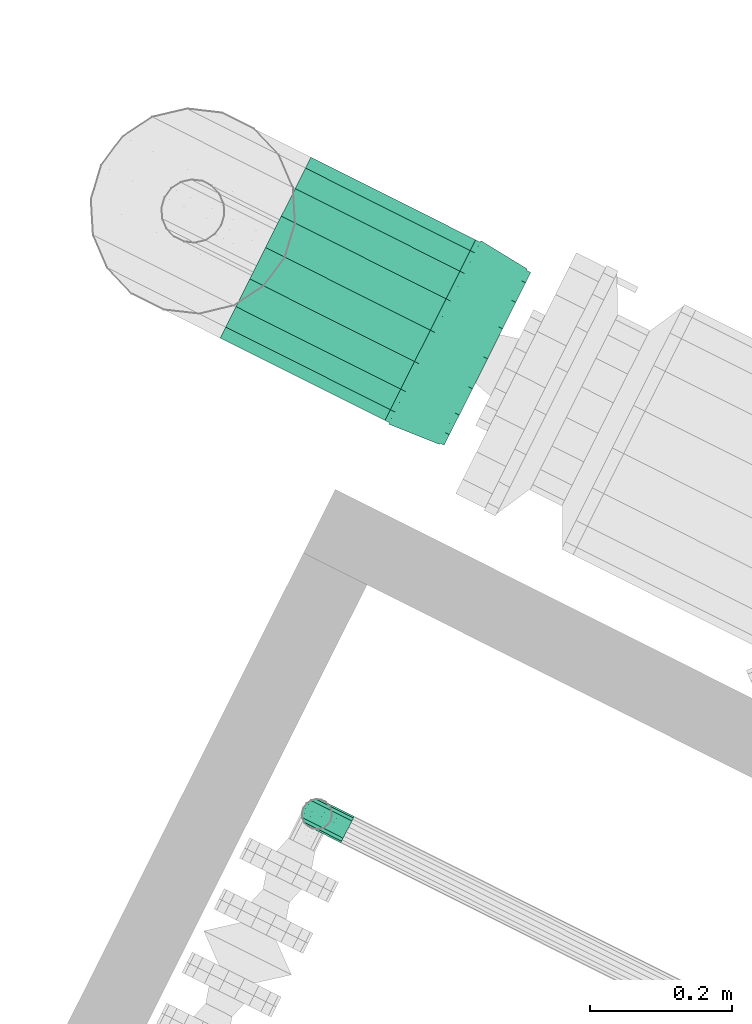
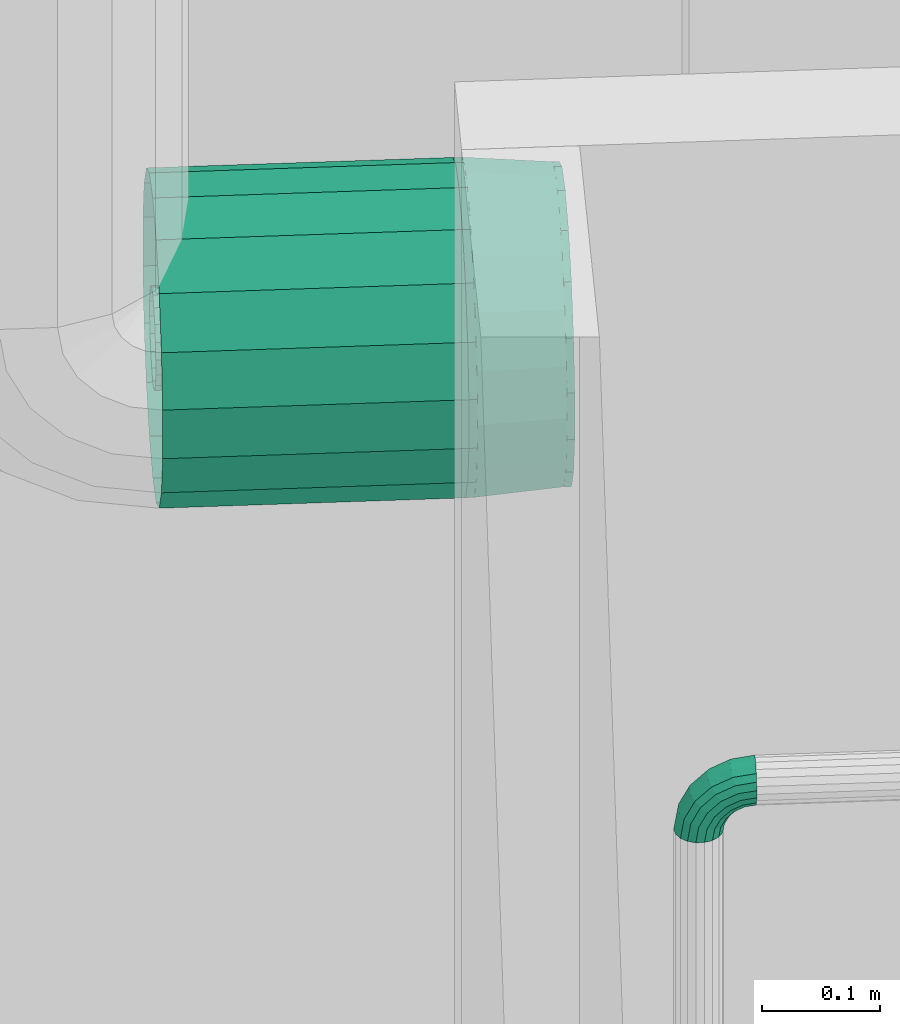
# One storey, part 156 of 206: 2 flow segments, 1 flow fitting.
"""IFC2X3 building model written with IfcOpenShell, lengths in metres."""

from ifc_helpers import new_model, si_unit, derived_unit, direction, frame, origin, place, context, subcontext, project, spatial, face_set, surface_model, source, transform, mapped, material, type_object, type_shapes, element, save


model = new_model("IFC2X3")

# Units and contexts
model_context = context("Model", 3, precision=5.2338327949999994e-05, world=origin(), true_north=direction((0.0, 1.0)))
body_context = subcontext(model_context, "Body", "Model", "MODEL_VIEW")
ifc_project = project(units=[si_unit("LENGTHUNIT", "METRE"), si_unit("AREAUNIT", "SQUARE_METRE"), si_unit("VOLUMEUNIT", "CUBIC_METRE"), si_unit("MASSUNIT", "GRAM", prefix="KILO"), si_unit("PLANEANGLEUNIT", "RADIAN"), derived_unit("THERMALTRANSMITTANCEUNIT", [(si_unit("MASSUNIT", "GRAM", prefix="KILO"), 1), (si_unit("THERMODYNAMICTEMPERATUREUNIT", "KELVIN"), -1), (si_unit("TIMEUNIT", "SECOND"), -3)])], contexts=[model_context])

# Site, building, storey
site_placement = place(None, frame((0.0, 0.0, 0.0), z_axis=(0.0, 0.0, 1.0), x_axis=(0.8939966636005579, -0.4480736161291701, 0.0)))
site = spatial("IfcSite", under=ifc_project, at=site_placement, Name="Default", CompositionType="ELEMENT")
building_placement = place(site_placement, origin())
building = spatial("IfcBuilding", under=site, at=building_placement, CompositionType="ELEMENT")
storey_placement = place(building_placement, origin())
storey = spatial("IfcBuildingStorey", under=building, at=storey_placement, Name="Erdgeschoss", CompositionType="ELEMENT", Elevation=0.0)

# Flow fitting
ifc_material_1 = material(Name="IfcSurfaceStyle #1741")
distribution_element_type_1 = type_object("IfcDistributionElementType", Name="Übergangsstück 348295:Übergangsstück 348295", material=ifc_material_1)
shared_shape_1 = source(origin(), body_context, "Body", "SurfaceModel", [
    surface_model("IfcFaceBasedSurfaceModel", [(29.009127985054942, 10.403208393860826, 2.2759499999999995), (29.009127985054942, 10.390194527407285, 2.2782446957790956), (29.00251303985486, 10.390194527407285, 2.2782446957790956), (29.00251303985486, 10.403208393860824, 2.27595), (29.009127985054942, 10.378750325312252, 2.2848520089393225), (29.00251303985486, 10.378750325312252, 2.2848520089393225), (29.009127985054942, 10.370256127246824, 2.294975), (29.00251303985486, 10.370256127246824, 2.294975), (29.009127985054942, 10.365736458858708, 2.3073926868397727), (29.00251303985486, 10.365736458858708, 2.3073926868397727), (29.009127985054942, 10.36573645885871, 2.320607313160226), (29.00251303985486, 10.36573645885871, 2.320607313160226), (29.009127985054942, 10.370256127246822, 2.3330249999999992), (29.00251303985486, 10.370256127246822, 2.3330249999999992), (29.009127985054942, 10.378750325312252, 2.3431479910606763), (29.00251303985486, 10.378750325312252, 2.3431479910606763), (29.009127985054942, 10.390194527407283, 2.3497553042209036), (29.00251303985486, 10.390194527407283, 2.3497553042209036), (29.009127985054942, 10.403208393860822, 2.35205), (29.00251303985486, 10.403208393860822, 2.35205), (29.009127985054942, 10.416222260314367, 2.349755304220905), (29.00251303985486, 10.416222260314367, 2.3497553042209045), (29.009127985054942, 10.427666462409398, 2.3431479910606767), (29.00251303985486, 10.427666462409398, 2.3431479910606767), (29.009127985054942, 10.43616066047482, 2.3330249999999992), (29.00251303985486, 10.43616066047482, 2.3330249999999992), (29.009127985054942, 10.44068032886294, 2.3206073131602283), (29.00251303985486, 10.44068032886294, 2.3206073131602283), (29.009127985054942, 10.440680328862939, 2.307392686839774), (29.00251303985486, 10.440680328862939, 2.307392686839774), (29.009127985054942, 10.43616066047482, 2.294975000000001), (29.00251303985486, 10.43616066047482, 2.294975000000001), (29.009127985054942, 10.4276664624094, 2.284852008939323), (29.00251303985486, 10.4276664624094, 2.284852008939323), (29.009127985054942, 10.416222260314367, 2.278244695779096), (29.00251303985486, 10.416222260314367, 2.278244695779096), (29.00251303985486, 10.365158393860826, 2.313999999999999), (29.00251303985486, 10.367453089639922, 2.327013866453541), (28.926277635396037, 10.361439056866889, 2.3292027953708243), (28.926277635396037, 10.358758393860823, 2.313999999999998), (29.00251303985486, 10.374060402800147, 2.338458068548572), (28.926277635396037, 10.369157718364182, 2.342571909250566), (29.00251303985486, 10.384183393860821, 2.3469522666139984), (28.926277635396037, 10.38098339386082, 2.352494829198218), (29.00251303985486, 10.396601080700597, 2.351471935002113), (28.926277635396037, 10.395489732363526, 2.357774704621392), (29.00251303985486, 10.40981570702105, 2.3514719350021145), (28.926277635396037, 10.410927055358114, 2.3577747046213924), (29.00251303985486, 10.422233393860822, 2.3469522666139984), (28.926277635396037, 10.42543339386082, 2.352494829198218), (29.00251303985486, 10.432356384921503, 2.338458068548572), (28.926277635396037, 10.43725906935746, 2.3425719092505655), (29.00251303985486, 10.43896369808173, 2.3270138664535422), (28.926277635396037, 10.444977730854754, 2.329202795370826), (29.00251303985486, 10.441258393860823, 2.314), (28.926277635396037, 10.447658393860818, 2.314), (29.00251303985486, 10.438963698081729, 2.3009861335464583), (28.926277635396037, 10.444977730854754, 2.298797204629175), (29.00251303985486, 10.432356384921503, 2.2895419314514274), (28.926277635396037, 10.437259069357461, 2.285428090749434), (29.00251303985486, 10.422233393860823, 2.281047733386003), (28.926277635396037, 10.42543339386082, 2.2755051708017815), (29.00251303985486, 10.409815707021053, 2.2765280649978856), (28.926277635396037, 10.410927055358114, 2.270225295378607), (29.00251303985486, 10.3966010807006, 2.276528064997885), (28.926277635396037, 10.395489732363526, 2.2702252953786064), (29.00251303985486, 10.384183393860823, 2.2810477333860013), (28.926277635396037, 10.38098339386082, 2.27550517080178), (29.00251303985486, 10.374060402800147, 2.2895419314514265), (28.926277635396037, 10.369157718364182, 2.285428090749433), (29.00251303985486, 10.36745308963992, 2.3009861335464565), (28.926277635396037, 10.361439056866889, 2.298797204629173), (28.926277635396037, 10.403208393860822, 2.26955), (28.926277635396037, 10.388005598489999, 2.272230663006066), (28.91912798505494, 10.388005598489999, 2.272230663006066), (28.91912798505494, 10.403208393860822, 2.26955), (28.926277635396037, 10.374636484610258, 2.2799493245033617), (28.91912798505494, 10.374636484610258, 2.2799493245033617), (28.926277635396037, 10.364713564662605, 2.291775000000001), (28.91912798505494, 10.364713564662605, 2.291775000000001), (28.926277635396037, 10.35943368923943, 2.3062813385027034), (28.91912798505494, 10.35943368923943, 2.3062813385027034), (28.926277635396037, 10.359433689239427, 2.3217186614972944), (28.91912798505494, 10.359433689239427, 2.3217186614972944), (28.926277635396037, 10.364713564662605, 2.336224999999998), (28.91912798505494, 10.364713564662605, 2.336224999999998), (28.926277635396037, 10.374636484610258, 2.348050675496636), (28.91912798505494, 10.374636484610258, 2.348050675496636), (28.926277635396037, 10.388005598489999, 2.3557693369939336), (28.91912798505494, 10.388005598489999, 2.3557693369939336), (28.926277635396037, 10.403208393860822, 2.3584500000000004), (28.91912798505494, 10.403208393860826, 2.3584499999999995), (28.926277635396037, 10.41841118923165, 2.3557693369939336), (28.91912798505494, 10.41841118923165, 2.3557693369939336), (28.926277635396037, 10.43178030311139, 2.348050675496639), (28.91912798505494, 10.43178030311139, 2.348050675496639), (28.926277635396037, 10.441703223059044, 2.3362249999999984), (28.91912798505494, 10.441703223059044, 2.3362249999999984), (28.926277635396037, 10.446983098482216, 2.321718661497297), (28.91912798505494, 10.446983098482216, 2.321718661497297), (28.926277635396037, 10.446983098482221, 2.3062813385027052), (28.91912798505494, 10.446983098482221, 2.3062813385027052), (28.926277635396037, 10.441703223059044, 2.291775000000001), (28.91912798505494, 10.441703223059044, 2.291775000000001), (28.926277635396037, 10.43178030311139, 2.279949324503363), (28.91912798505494, 10.43178030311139, 2.279949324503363), (28.926277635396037, 10.418411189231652, 2.272230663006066), (28.91912798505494, 10.418411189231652, 2.272230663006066), (29.009127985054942, 10.403208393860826, 2.17595), (29.009127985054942, 10.355992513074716, 2.1842754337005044), (29.00251303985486, 10.355992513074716, 2.1842754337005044), (29.00251303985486, 10.403208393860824, 2.1759500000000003), (29.009127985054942, 10.314471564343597, 2.208247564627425), (29.00251303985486, 10.314471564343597, 2.208247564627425), (29.009127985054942, 10.283653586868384, 2.2449749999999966), (29.00251303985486, 10.283653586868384, 2.2449749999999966), (29.009127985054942, 10.267255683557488, 2.2900278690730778), (29.00251303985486, 10.267255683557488, 2.2900278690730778), (29.009127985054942, 10.267255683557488, 2.337972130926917), (29.00251303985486, 10.267255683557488, 2.337972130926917), (29.009127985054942, 10.28365358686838, 2.3830249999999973), (29.00251303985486, 10.28365358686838, 2.3830249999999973), (29.009127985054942, 10.314471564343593, 2.4197524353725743), (29.00251303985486, 10.314471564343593, 2.4197524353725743), (29.009127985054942, 10.355992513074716, 2.4437245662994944), (29.00251303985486, 10.355992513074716, 2.4437245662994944), (29.009127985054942, 10.403208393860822, 2.45205), (29.00251303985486, 10.403208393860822, 2.45205), (29.009127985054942, 10.450424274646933, 2.4437245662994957), (29.00251303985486, 10.450424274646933, 2.4437245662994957), (29.009127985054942, 10.491945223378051, 2.4197524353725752), (29.00251303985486, 10.491945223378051, 2.4197524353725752), (29.009127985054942, 10.522763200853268, 2.3830250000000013), (29.00251303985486, 10.522763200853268, 2.3830250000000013), (29.009127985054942, 10.539161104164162, 2.337972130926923), (29.00251303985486, 10.539161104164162, 2.337972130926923), (29.009127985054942, 10.539161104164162, 2.2900278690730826), (29.00251303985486, 10.539161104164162, 2.2900278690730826), (29.009127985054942, 10.52276320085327, 2.244975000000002), (29.00251303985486, 10.52276320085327, 2.244975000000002), (29.009127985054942, 10.491945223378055, 2.2082475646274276), (29.00251303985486, 10.491945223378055, 2.2082475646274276), (29.009127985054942, 10.450424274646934, 2.1842754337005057), (29.00251303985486, 10.450424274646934, 2.1842754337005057), (29.00251303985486, 10.265158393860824, 2.313999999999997), (29.00251303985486, 10.273483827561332, 2.3612158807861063), (28.926277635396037, 10.2674697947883, 2.3634048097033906), (28.926277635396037, 10.258758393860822, 2.3139999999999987), (29.00251303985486, 10.297455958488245, 2.4027368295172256), (28.926277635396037, 10.292553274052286, 2.4068506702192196), (29.00251303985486, 10.334183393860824, 2.433554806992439), (28.926277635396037, 10.330983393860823, 2.4390973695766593), (29.00251303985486, 10.379236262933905, 2.449952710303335), (28.926277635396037, 10.378124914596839, 2.4562554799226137), (29.00251303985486, 10.427180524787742, 2.4499527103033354), (28.926277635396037, 10.428291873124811, 2.4562554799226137), (29.00251303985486, 10.47223339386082, 2.4335548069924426), (28.926277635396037, 10.475433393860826, 2.4390973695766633), (29.00251303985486, 10.5089608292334, 2.4027368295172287), (28.926277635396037, 10.51386351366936, 2.406850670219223), (29.00251303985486, 10.532932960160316, 2.3612158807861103), (28.926277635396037, 10.53894699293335, 2.3634048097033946), (29.00251303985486, 10.541258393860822, 2.3140000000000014), (28.926277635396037, 10.547658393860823, 2.314000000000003), (29.00251303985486, 10.532932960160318, 2.2667841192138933), (28.926277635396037, 10.538946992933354, 2.264595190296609), (29.00251303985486, 10.5089608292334, 2.225263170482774), (28.926277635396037, 10.513863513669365, 2.221149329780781), (29.00251303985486, 10.472233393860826, 2.194445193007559), (28.926277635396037, 10.475433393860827, 2.188902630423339), (29.00251303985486, 10.427180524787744, 2.1780472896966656), (28.926277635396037, 10.428291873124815, 2.1717445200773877), (29.00251303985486, 10.379236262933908, 2.1780472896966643), (28.926277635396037, 10.378124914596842, 2.171744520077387), (29.00251303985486, 10.334183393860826, 2.1944451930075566), (28.926277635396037, 10.33098339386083, 2.1889026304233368), (29.00251303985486, 10.29745595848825, 2.2252631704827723), (28.926277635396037, 10.29255327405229, 2.2211493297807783), (29.00251303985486, 10.27348382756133, 2.26678411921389), (28.926277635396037, 10.2674697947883, 2.2645951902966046), (28.926277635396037, 10.403208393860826, 2.169550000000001), (28.926277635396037, 10.353803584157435, 2.1782614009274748), (28.91912798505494, 10.353803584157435, 2.1782614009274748), (28.91912798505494, 10.403208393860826, 2.169550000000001), (28.926277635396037, 10.310357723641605, 2.203344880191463), (28.91912798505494, 10.310357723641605, 2.203344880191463), (28.926277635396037, 10.278111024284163, 2.2417749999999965), (28.91912798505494, 10.278111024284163, 2.2417749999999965), (28.926277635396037, 10.260952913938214, 2.288916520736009), (28.91912798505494, 10.260952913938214, 2.288916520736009), (28.926277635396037, 10.260952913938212, 2.3390834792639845), (28.91912798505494, 10.260952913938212, 2.3390834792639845), (28.926277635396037, 10.278111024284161, 2.386224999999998), (28.91912798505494, 10.278111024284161, 2.386224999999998), (28.926277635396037, 10.3103577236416, 2.4246551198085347), (28.91912798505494, 10.3103577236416, 2.4246551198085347), (28.926277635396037, 10.353803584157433, 2.449738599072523), (28.91912798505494, 10.353803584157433, 2.449738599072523), (28.926277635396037, 10.403208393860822, 2.45845), (28.91912798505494, 10.403208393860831, 2.458449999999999), (28.926277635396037, 10.452613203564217, 2.449738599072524), (28.91912798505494, 10.452613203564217, 2.449738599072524), (28.926277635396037, 10.496059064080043, 2.424655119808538), (28.91912798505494, 10.496059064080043, 2.424655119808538), (28.926277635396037, 10.528305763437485, 2.3862250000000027), (28.91912798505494, 10.528305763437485, 2.3862250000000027), (28.926277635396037, 10.545463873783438, 2.3390834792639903), (28.91912798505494, 10.545463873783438, 2.3390834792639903), (28.926277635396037, 10.545463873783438, 2.2889165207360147), (28.91912798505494, 10.545463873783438, 2.2889165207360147), (28.926277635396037, 10.528305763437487, 2.241775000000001), (28.91912798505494, 10.528305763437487, 2.241775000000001), (28.926277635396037, 10.496059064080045, 2.2033448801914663), (28.91912798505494, 10.496059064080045, 2.2033448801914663), (28.926277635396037, 10.45261320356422, 2.178261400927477), (28.91912798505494, 10.45261320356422, 2.178261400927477)], [face_set([[[0, 1, 2, 3]], [[1, 4, 5, 2]], [[4, 6, 7, 5]], [[6, 8, 9, 7]], [[8, 10, 11, 9]], [[10, 12, 13, 11]], [[12, 14, 15, 13]], [[14, 16, 17, 15]], [[16, 18, 19, 17]], [[18, 20, 21, 19]], [[20, 22, 23, 21]], [[22, 24, 25, 23]], [[24, 26, 27, 25]], [[26, 28, 29, 27]], [[28, 30, 31, 29]], [[30, 32, 33, 31]], [[32, 34, 35, 33]], [[34, 0, 3, 35]], [[36, 37, 38, 39]], [[37, 40, 41, 38]], [[40, 42, 43, 41]], [[42, 44, 45, 43]], [[44, 46, 47, 45]], [[46, 48, 49, 47]], [[48, 50, 51, 49]], [[50, 52, 53, 51]], [[52, 54, 55, 53]], [[54, 56, 57, 55]], [[56, 58, 59, 57]], [[58, 60, 61, 59]], [[60, 62, 63, 61]], [[62, 64, 65, 63]], [[64, 66, 67, 65]], [[66, 68, 69, 67]], [[68, 70, 71, 69]], [[70, 36, 39, 71]], [[72, 73, 74, 75]], [[73, 76, 77, 74]], [[76, 78, 79, 77]], [[78, 80, 81, 79]], [[80, 82, 83, 81]], [[82, 84, 85, 83]], [[84, 86, 87, 85]], [[86, 88, 89, 87]], [[88, 90, 91, 89]], [[90, 92, 93, 91]], [[92, 94, 95, 93]], [[94, 96, 97, 95]], [[96, 98, 99, 97]], [[98, 100, 101, 99]], [[100, 102, 103, 101]], [[102, 104, 105, 103]], [[104, 106, 107, 105]], [[106, 72, 75, 107]], [[108, 109, 110, 111]], [[109, 112, 113, 110]], [[112, 114, 115, 113]], [[114, 116, 117, 115]], [[116, 118, 119, 117]], [[118, 120, 121, 119]], [[120, 122, 123, 121]], [[122, 124, 125, 123]], [[124, 126, 127, 125]], [[126, 128, 129, 127]], [[128, 130, 131, 129]], [[130, 132, 133, 131]], [[132, 134, 135, 133]], [[134, 136, 137, 135]], [[136, 138, 139, 137]], [[138, 140, 141, 139]], [[140, 142, 143, 141]], [[142, 108, 111, 143]], [[144, 145, 146, 147]], [[145, 148, 149, 146]], [[148, 150, 151, 149]], [[150, 152, 153, 151]], [[152, 154, 155, 153]], [[154, 156, 157, 155]], [[156, 158, 159, 157]], [[158, 160, 161, 159]], [[160, 162, 163, 161]], [[162, 164, 165, 163]], [[164, 166, 167, 165]], [[166, 168, 169, 167]], [[168, 170, 171, 169]], [[170, 172, 173, 171]], [[172, 174, 175, 173]], [[174, 176, 177, 175]], [[176, 178, 179, 177]], [[178, 144, 147, 179]], [[180, 181, 182, 183]], [[181, 184, 185, 182]], [[184, 186, 187, 185]], [[186, 188, 189, 187]], [[188, 190, 191, 189]], [[190, 192, 193, 191]], [[192, 194, 195, 193]], [[194, 196, 197, 195]], [[196, 198, 199, 197]], [[198, 200, 201, 199]], [[200, 202, 203, 201]], [[202, 204, 205, 203]], [[204, 206, 207, 205]], [[206, 208, 209, 207]], [[208, 210, 211, 209]], [[210, 212, 213, 211]], [[212, 214, 215, 213]], [[214, 180, 183, 215]]])]),
])
type_shapes(distribution_element_type_1, [shared_shape_1])
flow_fitting_placement = place(storey_placement, origin())
element("IfcFlowFitting", 1, at=flow_fitting_placement, inside=storey, type_object=distribution_element_type_1, material=ifc_material_1, Name="Übergangsstück", ObjectType="Übergangsstück", context=body_context, shape_type="MappedRepresentation", body=[
    mapped(shared_shape_1, transform((0.0, 0.0, 0.0), scale=1.0)),
])

# Flow segments
distribution_element_type_2 = type_object("IfcDistributionElementType", Name="Stahlrohr nach DIN 2448 349285:Stahlrohr nach DIN 2448 349285", material=ifc_material_1)
shared_shape_2 = source(origin(), body_context, "Body", "SurfaceModel", [
    surface_model("IfcFaceBasedSurfaceModel", [(28.91912798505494, 10.403208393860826, 2.2695499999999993), (28.91912798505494, 10.38800559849, 2.272230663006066), (28.659924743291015, 10.38800559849, 2.272230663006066), (28.659924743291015, 10.403208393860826, 2.2695499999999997), (28.91912798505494, 10.37463648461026, 2.2799493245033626), (28.659924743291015, 10.37463648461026, 2.279949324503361), (28.91912798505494, 10.364713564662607, 2.291775), (28.659924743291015, 10.364713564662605, 2.291775), (28.91912798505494, 10.359433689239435, 2.3062813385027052), (28.659924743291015, 10.359433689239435, 2.306281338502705), (28.91912798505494, 10.359433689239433, 2.3217186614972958), (28.659924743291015, 10.359433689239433, 2.321718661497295), (28.91912798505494, 10.364713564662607, 2.3362250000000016), (28.659924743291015, 10.364713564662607, 2.3362250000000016), (28.91912798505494, 10.374636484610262, 2.348050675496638), (28.659924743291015, 10.37463648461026, 2.348050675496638), (28.91912798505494, 10.38800559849, 2.355769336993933), (28.659924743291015, 10.38800559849, 2.355769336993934), (28.91912798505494, 10.403208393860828, 2.358449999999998), (28.659924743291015, 10.403208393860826, 2.358449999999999), (28.91912798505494, 10.418411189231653, 2.355769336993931), (28.659924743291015, 10.418411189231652, 2.3557693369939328), (28.91912798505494, 10.431780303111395, 2.3480506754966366), (28.659924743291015, 10.431780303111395, 2.348050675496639), (28.91912798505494, 10.441703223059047, 2.336224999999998), (28.659924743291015, 10.441703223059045, 2.3362249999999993), (28.91912798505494, 10.446983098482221, 2.3217186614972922), (28.659924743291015, 10.446983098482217, 2.321718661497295), (28.91912798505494, 10.446983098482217, 2.3062813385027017), (28.659924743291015, 10.446983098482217, 2.3062813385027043), (28.91912798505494, 10.441703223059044, 2.2917749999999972), (28.659924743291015, 10.441703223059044, 2.2917750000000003), (28.91912798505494, 10.431780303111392, 2.279949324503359), (28.659924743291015, 10.431780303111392, 2.2799493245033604), (28.91912798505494, 10.418411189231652, 2.272230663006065), (28.659924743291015, 10.418411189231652, 2.2722306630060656), (28.91912798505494, 10.403208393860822, 2.1695499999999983), (28.91912798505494, 10.35380358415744, 2.1782614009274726), (28.659924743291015, 10.353803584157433, 2.1782614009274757), (28.659924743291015, 10.403208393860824, 2.1695499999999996), (28.91912798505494, 10.310357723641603, 2.2033448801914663), (28.659924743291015, 10.310357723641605, 2.203344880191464), (28.91912798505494, 10.278111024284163, 2.2417750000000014), (28.659924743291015, 10.278111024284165, 2.241775), (28.91912798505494, 10.260952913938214, 2.2889165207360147), (28.659924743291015, 10.260952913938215, 2.2889165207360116), (28.91912798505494, 10.260952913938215, 2.339083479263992), (28.659924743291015, 10.260952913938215, 2.3390834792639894), (28.91912798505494, 10.278111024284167, 2.3862250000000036), (28.659924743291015, 10.278111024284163, 2.3862250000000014), (28.91912798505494, 10.310357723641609, 2.424655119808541), (28.659924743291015, 10.310357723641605, 2.424655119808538), (28.91912798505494, 10.353803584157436, 2.4497385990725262), (28.659924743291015, 10.353803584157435, 2.4497385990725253), (28.91912798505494, 10.403208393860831, 2.458449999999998), (28.659924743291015, 10.403208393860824, 2.4584499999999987), (28.91912798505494, 10.452613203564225, 2.449738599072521), (28.659924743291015, 10.45261320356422, 2.449738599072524), (28.91912798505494, 10.49605906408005, 2.4246551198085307), (28.659924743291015, 10.496059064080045, 2.4246551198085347), (28.91912798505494, 10.528305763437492, 2.386224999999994), (28.659924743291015, 10.528305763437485, 2.386224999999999), (28.91912798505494, 10.545463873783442, 2.339083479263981), (28.659924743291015, 10.545463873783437, 2.3390834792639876), (28.91912798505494, 10.545463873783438, 2.2889165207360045), (28.659924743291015, 10.545463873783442, 2.2889165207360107), (28.91912798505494, 10.528305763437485, 2.2417749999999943), (28.659924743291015, 10.528305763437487, 2.241775), (28.91912798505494, 10.496059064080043, 2.2033448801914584), (28.659924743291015, 10.496059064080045, 2.2033448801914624), (28.91912798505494, 10.452613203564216, 2.1782614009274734), (28.659924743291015, 10.452613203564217, 2.178261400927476)], [face_set([[[0, 1, 2, 3]], [[1, 4, 5, 2]], [[4, 6, 7, 5]], [[6, 8, 9, 7]], [[8, 10, 11, 9]], [[10, 12, 13, 11]], [[12, 14, 15, 13]], [[14, 16, 17, 15]], [[16, 18, 19, 17]], [[18, 20, 21, 19]], [[20, 22, 23, 21]], [[22, 24, 25, 23]], [[24, 26, 27, 25]], [[26, 28, 29, 27]], [[28, 30, 31, 29]], [[30, 32, 33, 31]], [[32, 34, 35, 33]], [[34, 0, 3, 35]], [[36, 37, 38, 39]], [[37, 40, 41, 38]], [[40, 42, 43, 41]], [[42, 44, 45, 43]], [[44, 46, 47, 45]], [[46, 48, 49, 47]], [[48, 50, 51, 49]], [[50, 52, 53, 51]], [[52, 54, 55, 53]], [[54, 56, 57, 55]], [[56, 58, 59, 57]], [[58, 60, 61, 59]], [[60, 62, 63, 61]], [[62, 64, 65, 63]], [[64, 66, 67, 65]], [[66, 68, 69, 67]], [[68, 70, 71, 69]], [[70, 36, 39, 71]]])]),
])
type_shapes(distribution_element_type_2, [shared_shape_2])
flow_segment_1_placement = place(storey_placement, origin())
element("IfcFlowSegment", 2, at=flow_segment_1_placement, inside=storey, type_object=distribution_element_type_2, material=ifc_material_1, Name="Stahlrohr nach DIN 2448", ObjectType="Stahlrohr nach DIN 2448", context=body_context, shape_type="MappedRepresentation", body=[
    mapped(shared_shape_2, transform((0.0, 0.0, 0.0), scale=1.0)),
])
ifc_material_2 = material(Name="IfcSurfaceStyle #352577")
distribution_element_type_3 = type_object("IfcDistributionElementType", Name="Rohrbogen 611955:Rohrbogen 611955", material=ifc_material_2)
shared_shape_3 = source(origin(), body_context, "Body", "SurfaceModel", [
    surface_model("IfcFaceBasedSurfaceModel", [(29.129818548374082, 9.723162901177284, 2.3352000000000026), (29.129818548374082, 9.730413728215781, 2.333921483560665), (29.10882965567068, 9.730413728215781, 2.330597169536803), (29.108434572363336, 9.723162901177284, 2.331813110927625), (29.089895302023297, 9.730413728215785, 2.320949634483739), (29.089143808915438, 9.723162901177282, 2.321983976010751), (29.07486891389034, 9.730413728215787, 2.3059232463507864), (29.07383457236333, 9.723162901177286, 2.3066747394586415), (29.065221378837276, 9.730413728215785, 2.2869888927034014), (29.06400543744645, 9.723162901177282, 2.2873839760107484), (29.061897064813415, 9.730413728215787, 2.2660000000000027), (29.06061854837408, 9.72316290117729, 2.2660000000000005), (29.129818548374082, 9.736789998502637, 2.3302401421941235), (29.109967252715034, 9.736789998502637, 2.3270960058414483), (29.092059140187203, 9.736789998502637, 2.317971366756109), (29.077847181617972, 9.736789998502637, 2.3037594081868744), (29.068722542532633, 9.736789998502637, 2.2858512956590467), (29.065578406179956, 9.73678999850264, 2.2660000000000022), (29.12981854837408, 9.741522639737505, 2.324600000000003), (29.111710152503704, 9.741522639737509, 2.321731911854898), (29.09537433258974, 9.741522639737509, 2.313408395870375), (29.08241015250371, 9.74152263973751, 2.300444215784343), (29.074086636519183, 9.74152263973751, 2.2841083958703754), (29.071218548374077, 9.741522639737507, 2.266000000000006), (29.129818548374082, 9.74404082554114, 2.317681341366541), (29.11384813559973, 9.744040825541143, 2.3151518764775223), (29.099441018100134, 9.744040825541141, 2.3078110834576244), (29.088007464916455, 9.744040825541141, 2.296377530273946), (29.08066667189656, 9.744040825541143, 2.2819704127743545), (29.078137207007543, 9.744040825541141, 2.2660000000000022), (29.12981854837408, 9.74404082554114, 2.3103186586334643), (29.116123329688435, 9.744040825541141, 2.3081495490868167), (29.103768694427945, 9.74404082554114, 2.3018545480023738), (29.093964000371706, 9.744040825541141, 2.2920498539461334), (29.087668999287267, 9.744040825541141, 2.2796952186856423), (29.085499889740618, 9.744040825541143, 2.2660000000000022), (29.129818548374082, 9.741522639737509, 2.3034000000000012), (29.11826131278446, 9.741522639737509, 2.301569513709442), (29.10783537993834, 9.741522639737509, 2.2962572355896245), (29.09956131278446, 9.741522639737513, 2.287983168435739), (29.09424903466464, 9.741522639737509, 2.277557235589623), (29.09241854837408, 9.741522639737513, 2.2660000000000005), (29.12981854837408, 9.736789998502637, 2.2977598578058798), (29.120004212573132, 9.736789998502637, 2.2962054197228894), (29.11115057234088, 9.736789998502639, 2.2916942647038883), (29.104124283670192, 9.73678999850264, 2.2846679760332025), (29.099613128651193, 9.73678999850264, 2.275814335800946), (29.098058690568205, 9.73678999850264, 2.2659999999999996), (29.129818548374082, 9.730413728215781, 2.2940785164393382), (29.12114180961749, 9.730413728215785, 2.292704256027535), (29.113314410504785, 9.730413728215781, 2.2887159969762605), (29.107102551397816, 9.730413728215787, 2.2825041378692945), (29.10311429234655, 9.730413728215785, 2.2746767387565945), (29.101740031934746, 9.730413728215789, 2.2660000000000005), (29.129818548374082, 9.723162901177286, 2.2927999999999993), (29.121536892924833, 9.723162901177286, 2.291488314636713), (29.11406590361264, 9.723162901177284, 2.28768165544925), (29.108136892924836, 9.723162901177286, 2.281752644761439), (29.10433023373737, 9.723162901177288, 2.2742816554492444), (29.103018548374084, 9.723162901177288, 2.2660000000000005), (29.129818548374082, 9.71591207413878, 2.2940785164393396), (29.12114180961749, 9.71591207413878, 2.292704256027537), (29.113314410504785, 9.715912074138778, 2.2887159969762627), (29.107102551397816, 9.715912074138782, 2.282504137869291), (29.10311429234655, 9.715912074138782, 2.274676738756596), (29.101740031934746, 9.715912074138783, 2.266000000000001), (29.129818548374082, 9.709535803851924, 2.2977598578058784), (29.120004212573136, 9.709535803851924, 2.2962054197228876), (29.111150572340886, 9.709535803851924, 2.2916942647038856), (29.104124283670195, 9.709535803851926, 2.284667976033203), (29.099613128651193, 9.70953580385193, 2.2758143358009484), (29.098058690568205, 9.709535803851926, 2.266000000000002), (29.129818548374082, 9.70480316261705, 2.303400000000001), (29.118261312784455, 9.704803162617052, 2.3015695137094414), (29.10783537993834, 9.704803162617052, 2.2962572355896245), (29.09956131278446, 9.704803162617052, 2.287983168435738), (29.094249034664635, 9.70480316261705, 2.277557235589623), (29.092418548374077, 9.704803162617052, 2.265999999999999), (29.129818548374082, 9.70228497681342, 2.3103186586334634), (29.11612332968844, 9.70228497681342, 2.308149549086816), (29.103768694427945, 9.70228497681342, 2.3018545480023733), (29.093964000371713, 9.702284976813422, 2.292049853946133), (29.087668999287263, 9.702284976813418, 2.279695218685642), (29.08549988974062, 9.702284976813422, 2.266000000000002), (29.129818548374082, 9.702284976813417, 2.3176813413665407), (29.11384813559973, 9.70228497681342, 2.3151518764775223), (29.099441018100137, 9.702284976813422, 2.307811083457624), (29.088007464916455, 9.702284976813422, 2.2963775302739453), (29.08066667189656, 9.70228497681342, 2.2819704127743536), (29.07813720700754, 9.702284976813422, 2.266000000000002), (29.129818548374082, 9.70480316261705, 2.324600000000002), (29.11171015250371, 9.704803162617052, 2.321731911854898), (29.09537433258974, 9.70480316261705, 2.3134083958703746), (29.08241015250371, 9.70480316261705, 2.300444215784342), (29.074086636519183, 9.704803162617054, 2.284108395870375), (29.071218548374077, 9.704803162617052, 2.2660000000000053), (29.12981854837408, 9.709535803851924, 2.330240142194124), (29.109967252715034, 9.709535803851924, 2.3270960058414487), (29.092059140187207, 9.709535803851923, 2.31797136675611), (29.077847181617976, 9.709535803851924, 2.303759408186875), (29.06872254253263, 9.709535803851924, 2.2858512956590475), (29.065578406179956, 9.709535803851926, 2.266000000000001), (29.129818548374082, 9.715912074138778, 2.333921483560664), (29.10882965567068, 9.71591207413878, 2.3305971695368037), (29.089895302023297, 9.71591207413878, 2.320949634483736), (29.074868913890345, 9.71591207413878, 2.305923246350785), (29.065221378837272, 9.715912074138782, 2.286988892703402), (29.061897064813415, 9.715912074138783, 2.2660000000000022)], [face_set([[[0, 1, 2, 3]], [[3, 2, 4, 5]], [[5, 4, 6, 7]], [[7, 6, 8, 9]], [[9, 8, 10, 11]], [[1, 12, 13, 2]], [[2, 13, 14, 4]], [[4, 14, 15, 6]], [[6, 15, 16, 8]], [[8, 16, 17, 10]], [[12, 18, 19, 13]], [[13, 19, 20, 14]], [[14, 20, 21, 15]], [[15, 21, 22, 16]], [[16, 22, 23, 17]], [[18, 24, 25, 19]], [[19, 25, 26, 20]], [[20, 26, 27, 21]], [[21, 27, 28, 22]], [[22, 28, 29, 23]], [[24, 30, 31, 25]], [[25, 31, 32, 26]], [[26, 32, 33, 27]], [[27, 33, 34, 28]], [[28, 34, 35, 29]], [[30, 36, 37, 31]], [[31, 37, 38, 32]], [[32, 38, 39, 33]], [[33, 39, 40, 34]], [[34, 40, 41, 35]], [[36, 42, 43, 37]], [[37, 43, 44, 38]], [[38, 44, 45, 39]], [[39, 45, 46, 40]], [[40, 46, 47, 41]], [[42, 48, 49, 43]], [[43, 49, 50, 44]], [[44, 50, 51, 45]], [[45, 51, 52, 46]], [[46, 52, 53, 47]], [[48, 54, 55, 49]], [[49, 55, 56, 50]], [[50, 56, 57, 51]], [[51, 57, 58, 52]], [[52, 58, 59, 53]], [[54, 60, 61, 55]], [[55, 61, 62, 56]], [[56, 62, 63, 57]], [[57, 63, 64, 58]], [[58, 64, 65, 59]], [[60, 66, 67, 61]], [[61, 67, 68, 62]], [[62, 68, 69, 63]], [[63, 69, 70, 64]], [[64, 70, 71, 65]], [[66, 72, 73, 67]], [[67, 73, 74, 68]], [[68, 74, 75, 69]], [[69, 75, 76, 70]], [[70, 76, 77, 71]], [[72, 78, 79, 73]], [[73, 79, 80, 74]], [[74, 80, 81, 75]], [[75, 81, 82, 76]], [[76, 82, 83, 77]], [[78, 84, 85, 79]], [[79, 85, 86, 80]], [[80, 86, 87, 81]], [[81, 87, 88, 82]], [[82, 88, 89, 83]], [[84, 90, 91, 85]], [[85, 91, 92, 86]], [[86, 92, 93, 87]], [[87, 93, 94, 88]], [[88, 94, 95, 89]], [[90, 96, 97, 91]], [[91, 97, 98, 92]], [[92, 98, 99, 93]], [[93, 99, 100, 94]], [[94, 100, 101, 95]], [[96, 102, 103, 97]], [[97, 103, 104, 98]], [[98, 104, 105, 99]], [[99, 105, 106, 100]], [[100, 106, 107, 101]], [[102, 0, 3, 103]], [[103, 3, 5, 104]], [[104, 5, 7, 105]], [[105, 7, 9, 106]], [[106, 9, 11, 107]]])]),
])
type_shapes(distribution_element_type_3, [shared_shape_3])
flow_segment_2_placement = place(storey_placement, origin())
element("IfcFlowSegment", 3, at=flow_segment_2_placement, inside=storey, type_object=distribution_element_type_3, material=ifc_material_2, Name="Rohrbogen", ObjectType="Rohrbogen", context=body_context, shape_type="MappedRepresentation", body=[
    mapped(shared_shape_3, transform((0.0, 0.0, 0.0), scale=1.0)),
])

save(model, "model.ifc")
